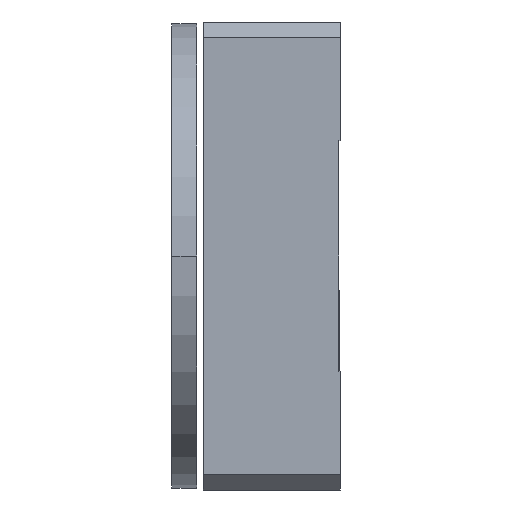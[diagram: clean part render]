
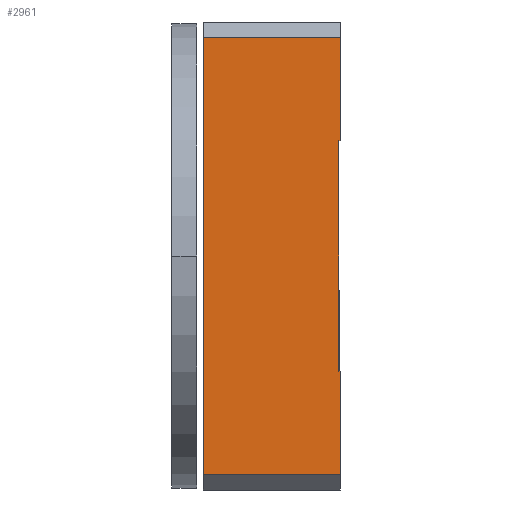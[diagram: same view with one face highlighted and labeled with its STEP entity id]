
A CAD part, left-side view. The second image highlights one B-rep face of the part: STEP entity #2961.
In plain terms, the highlighted planar face has unit normal (-1, 0, 0).
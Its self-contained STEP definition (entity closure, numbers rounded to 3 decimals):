
#1635=DIRECTION('',(0.,0.,1.));
#1636=VECTOR('',#1635,66.547);
#1637=CARTESIAN_POINT('',(-150.,-44.,73.8));
#1638=LINE('',#1637,#1636);
#1663=DIRECTION('',(0.,0.,1.));
#1664=VECTOR('',#1663,66.547);
#1665=CARTESIAN_POINT('',(-150.,-44.,-140.347));
#1666=LINE('',#1665,#1664);
#1722=DIRECTION('',(0.,0.,1.));
#1723=VECTOR('',#1722,280.694);
#1724=CARTESIAN_POINT('',(-150.,44.,-140.347));
#1725=LINE('',#1724,#1723);
#1776=DIRECTION('',(0.,0.,1.));
#1777=VECTOR('',#1776,147.6);
#1778=CARTESIAN_POINT('',(-150.,-43.,-73.8));
#1779=LINE('',#1778,#1777);
#1780=DIRECTION('',(0.,-1.,0.));
#1781=VECTOR('',#1780,1.);
#1782=CARTESIAN_POINT('',(-150.,-43.,-73.8));
#1783=LINE('',#1782,#1781);
#1784=DIRECTION('',(0.,-1.,0.));
#1785=VECTOR('',#1784,88.);
#1786=CARTESIAN_POINT('',(-150.,44.,-140.347));
#1787=LINE('',#1786,#1785);
#1788=DIRECTION('',(0.,-1.,0.));
#1789=VECTOR('',#1788,88.);
#1790=CARTESIAN_POINT('',(-150.,44.,140.347));
#1791=LINE('',#1790,#1789);
#1792=DIRECTION('',(0.,-1.,0.));
#1793=VECTOR('',#1792,1.);
#1794=CARTESIAN_POINT('',(-150.,-43.,73.8));
#1795=LINE('',#1794,#1793);
#2309=CARTESIAN_POINT('',(-150.,-44.,-140.347));
#2311=VERTEX_POINT('',#2309);
#2315=CARTESIAN_POINT('',(-150.,44.,-140.347));
#2316=VERTEX_POINT('',#2315);
#2318=CARTESIAN_POINT('',(-150.,-44.,140.347));
#2320=VERTEX_POINT('',#2318);
#2321=CARTESIAN_POINT('',(-150.,44.,140.347));
#2322=VERTEX_POINT('',#2321);
#2350=CARTESIAN_POINT('',(-150.,-44.,73.8));
#2352=VERTEX_POINT('',#2350);
#2359=CARTESIAN_POINT('',(-150.,-44.,-73.8));
#2360=VERTEX_POINT('',#2359);
#2365=CARTESIAN_POINT('',(-150.,-43.,-73.8));
#2366=CARTESIAN_POINT('',(-150.,-43.,73.8));
#2367=VERTEX_POINT('',#2365);
#2368=VERTEX_POINT('',#2366);
#2943=CARTESIAN_POINT('',(-150.,-44.,-150.));
#2944=DIRECTION('',(-1.,0.,0.));
#2945=DIRECTION('',(0.,0.,1.));
#2946=AXIS2_PLACEMENT_3D('',#2943,#2944,#2945);
#2947=PLANE('',#2946);
#2948=ORIENTED_EDGE('',*,*,#2678,.F.);
#2950=ORIENTED_EDGE('',*,*,#2949,.T.);
#2951=ORIENTED_EDGE('',*,*,#2819,.F.);
#2952=ORIENTED_EDGE('',*,*,#2938,.F.);
#2953=ORIENTED_EDGE('',*,*,#2896,.T.);
#2955=ORIENTED_EDGE('',*,*,#2954,.T.);
#2956=ORIENTED_EDGE('',*,*,#2793,.F.);
#2958=ORIENTED_EDGE('',*,*,#2957,.F.);
#2959=EDGE_LOOP('',(#2948,#2950,#2951,#2952,#2953,#2955,#2956,#2958));
#2960=FACE_OUTER_BOUND('',#2959,.F.);
#2961=ADVANCED_FACE('',(#2960),#2947,.T.);
#2678=EDGE_CURVE('',#2367,#2368,#1779,.T.);
#2793=EDGE_CURVE('',#2352,#2320,#1638,.T.);
#2819=EDGE_CURVE('',#2311,#2360,#1666,.T.);
#2896=EDGE_CURVE('',#2316,#2322,#1725,.T.);
#2938=EDGE_CURVE('',#2316,#2311,#1787,.T.);
#2949=EDGE_CURVE('',#2367,#2360,#1783,.T.);
#2954=EDGE_CURVE('',#2322,#2320,#1791,.T.);
#2957=EDGE_CURVE('',#2368,#2352,#1795,.T.);
